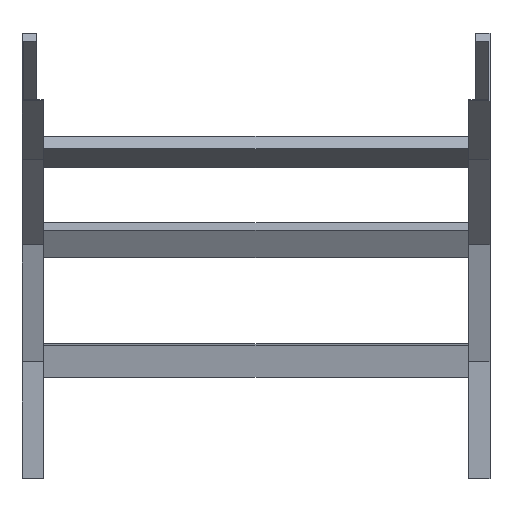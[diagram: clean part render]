
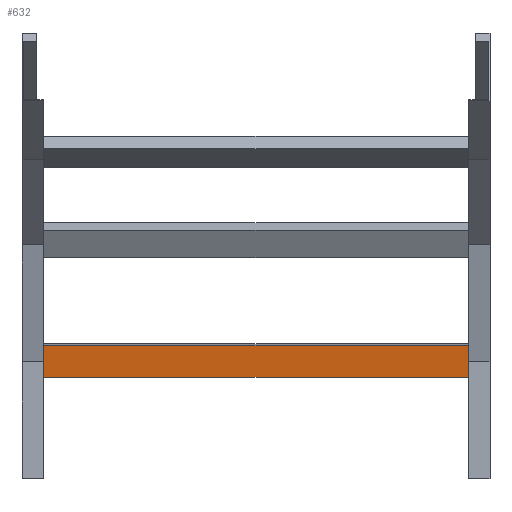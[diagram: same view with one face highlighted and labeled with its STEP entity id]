
A CAD part, front view. The second image highlights one B-rep face of the part: STEP entity #632.
In plain terms, the highlighted planar face has unit normal (0, -0.991, -0.131) as drawn and (0, -1, 0) by its records, which use the part's own axes.
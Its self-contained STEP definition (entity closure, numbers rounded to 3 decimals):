
#56 = DIRECTION ( 'NONE',  ( 0., 1., 0. ) ) ;
#65 = VERTEX_POINT ( 'NONE', #1230 ) ;
#202 = LINE ( 'NONE', #237, #1385 ) ;
#237 = CARTESIAN_POINT ( 'NONE',  ( 298., 0., 20.25 ) ) ;
#242 = ORIENTED_EDGE ( 'NONE', *, *, #320, .F. ) ;
#247 = EDGE_CURVE ( 'NONE', #65, #1193, #202, .T. ) ;
#300 = LINE ( 'NONE', #950, #1469 ) ;
#308 = VERTEX_POINT ( 'NONE', #848 ) ;
#320 = EDGE_CURVE ( 'NONE', #1193, #703, #300, .T. ) ;
#335 = CARTESIAN_POINT ( 'NONE',  ( 298., 0., 20.25 ) ) ;
#480 = DIRECTION ( 'NONE',  ( -1., 0., 0. ) ) ;
#483 = FACE_OUTER_BOUND ( 'NONE', #1009, .T. ) ;
#531 = CARTESIAN_POINT ( 'NONE',  ( -298., 0., 20.25 ) ) ;
#605 = DIRECTION ( 'NONE',  ( 0., 0., 1. ) ) ;
#625 = LINE ( 'NONE', #531, #1651 ) ;
#632 = ADVANCED_FACE ( 'NONE', ( #483 ), #1378, .F. ) ;
#663 = VECTOR ( 'NONE', #701, 1000. ) ;
#701 = DIRECTION ( 'NONE',  ( -1., 0., 0. ) ) ;
#703 = VERTEX_POINT ( 'NONE', #1287 ) ;
#705 = ORIENTED_EDGE ( 'NONE', *, *, #1132, .T. ) ;
#848 = CARTESIAN_POINT ( 'NONE',  ( -298., 0., 20.25 ) ) ;
#950 = CARTESIAN_POINT ( 'NONE',  ( 298., 0., -20.25 ) ) ;
#958 = ORIENTED_EDGE ( 'NONE', *, *, #247, .F. ) ;
#969 = EDGE_CURVE ( 'NONE', #65, #308, #1574, .T. ) ;
#1009 = EDGE_LOOP ( 'NONE', ( #705, #242, #958, #1084 ) ) ;
#1028 = DIRECTION ( 'NONE',  ( 0., 0., -1. ) ) ;
#1076 = AXIS2_PLACEMENT_3D ( 'NONE', #335, #56, #605 ) ;
#1083 = CARTESIAN_POINT ( 'NONE',  ( 298., 0., -20.25 ) ) ;
#1084 = ORIENTED_EDGE ( 'NONE', *, *, #969, .T. ) ;
#1132 = EDGE_CURVE ( 'NONE', #308, #703, #625, .T. ) ;
#1193 = VERTEX_POINT ( 'NONE', #1083 ) ;
#1230 = CARTESIAN_POINT ( 'NONE',  ( 298., 0., 20.25 ) ) ;
#1287 = CARTESIAN_POINT ( 'NONE',  ( -298., 0., -20.25 ) ) ;
#1335 = CARTESIAN_POINT ( 'NONE',  ( 298., 0., 20.25 ) ) ;
#1378 = PLANE ( 'NONE',  #1076 ) ;
#1385 = VECTOR ( 'NONE', #1028, 1000. ) ;
#1469 = VECTOR ( 'NONE', #480, 1000. ) ;
#1574 = LINE ( 'NONE', #1335, #663 ) ;
#1651 = VECTOR ( 'NONE', #1692, 1000. ) ;
#1692 = DIRECTION ( 'NONE',  ( 0., 0., -1. ) ) ;
